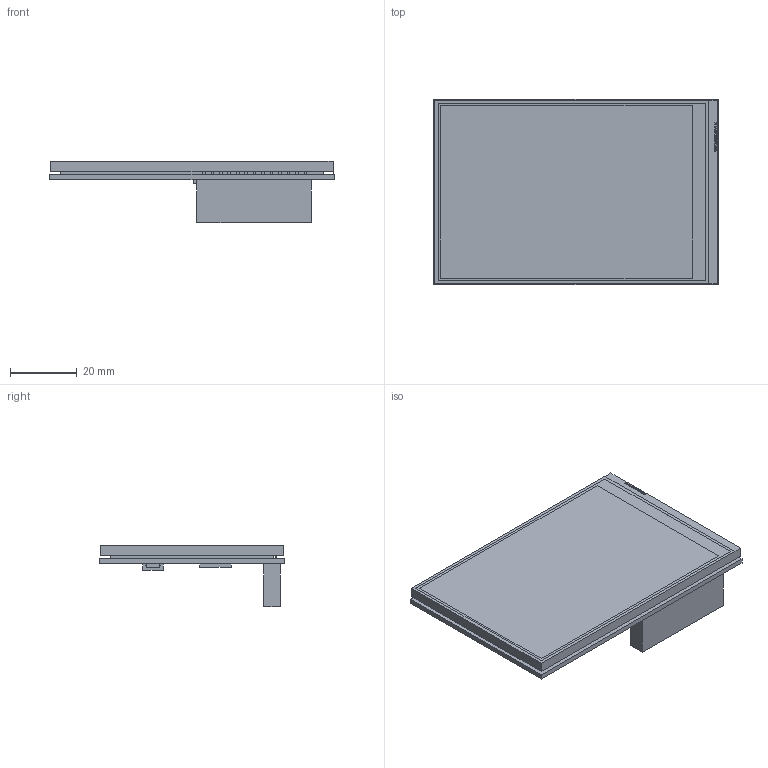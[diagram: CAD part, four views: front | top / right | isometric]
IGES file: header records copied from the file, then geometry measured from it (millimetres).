
Start section: SolidWorks IGES file using analytic representation for surfaces
Global section: file name: \\PSSILO\catalogs\ContentCentral\3.5inch RPi LCD\Cache\ECFBDABD-18EC-448C-BFBB-F32BC6478F50.IGS; native system: SolidWorks 2022; preprocessor: SolidWorks 2022; author: partstream; date: 260801.220248; units: millimetre
Bounding box: 85 x 55.5 x 18.3 mm (x, y, z)
Surface area: 15113.3 mm2 (no closed solid volume)
Topology: 0 solids, 0 shells, 1570 faces, 15167 edges, 15167 vertices
Faces by surface type: bspline 1518, revolution 52
